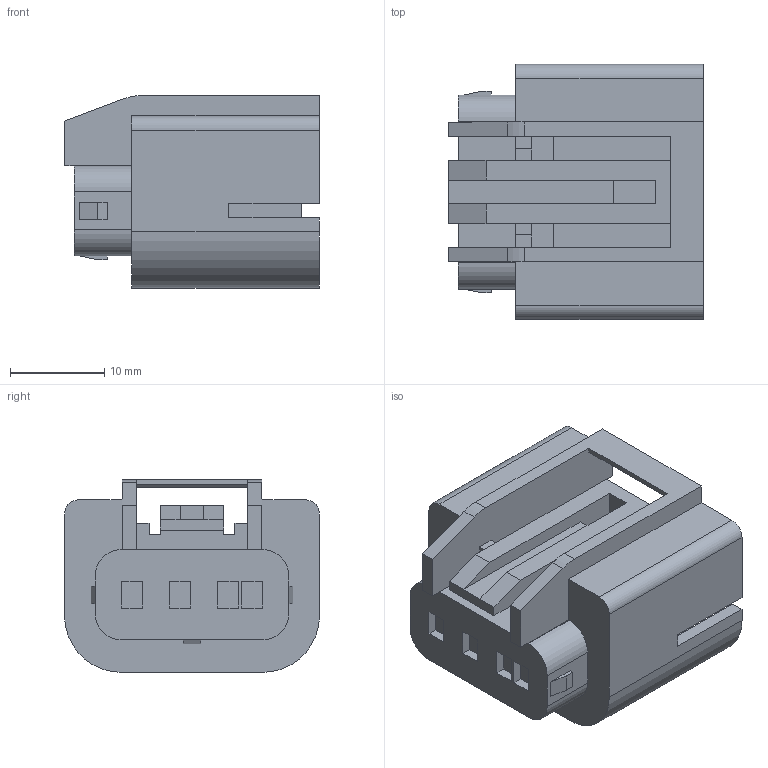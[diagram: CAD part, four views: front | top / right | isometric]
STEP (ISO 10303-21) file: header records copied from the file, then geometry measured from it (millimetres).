
FILE_DESCRIPTION(('CATIA V5 STEP Exchange'),'2;1');
FILE_NAME('N:\C-DAM_MyDesk\ENV\900093\6189-1019.stp','2013-06-13T07:16:40+00:00',('none'),('none'),'CATIA Version 5 Release 20 SP 4 (IN-10)','CATIA V5 STEP AP203','none');
FILE_SCHEMA(('CONFIG_CONTROL_DESIGN'));
Length unit declared in the file: millimetre
Products named in the file (1): 6189-1019
Bounding box: 27 x 27 x 20.4 mm (x, y, z)
Volume: 6796.6 mm3; surface area: 5864.1 mm2
Topology: 1 solids, 1 shells, 161 faces, 435 edges, 288 vertices
Faces by surface type: plane 141, cylinder 20
Entity records: 4751 total; most frequent: ORIENTED_EDGE 870, CARTESIAN_POINT 837, DIRECTION 661, EDGE_CURVE 435, VECTOR 395, LINE 395, VERTEX_POINT 288, EDGE_LOOP 177
